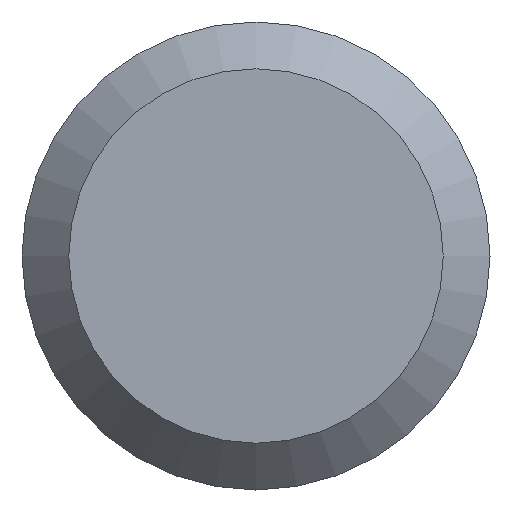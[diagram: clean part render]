
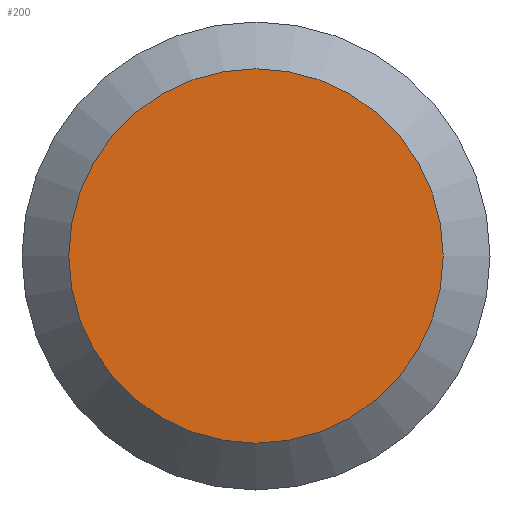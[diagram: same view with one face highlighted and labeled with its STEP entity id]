
A CAD part, left-side view. The second image highlights one B-rep face of the part: STEP entity #200.
In plain terms, the highlighted planar face has unit normal (-1, 0, 0).
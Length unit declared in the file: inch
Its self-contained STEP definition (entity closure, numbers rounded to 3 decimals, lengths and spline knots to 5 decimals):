
#10 = PLANE ( 'NONE',  #114 ) ;
#12 = FACE_OUTER_BOUND ( 'NONE', #163, .T. ) ;
#31 = EDGE_CURVE ( 'NONE', #127, #127, #138, .T. ) ;
#48 = DIRECTION ( 'NONE',  ( 1., 0., 0. ) ) ;
#57 = DIRECTION ( 'NONE',  ( 0., 0., -1. ) ) ;
#61 = CARTESIAN_POINT ( 'NONE',  ( 0., 0.083, 0. ) ) ;
#101 = CARTESIAN_POINT ( 'NONE',  ( 0., 0., -0.0664 ) ) ;
#114 = AXIS2_PLACEMENT_3D ( 'NONE', #61, #48, #57 ) ;
#127 = VERTEX_POINT ( 'NONE', #101 ) ;
#138 = CIRCLE ( 'NONE', #224, 0.0664 ) ;
#149 = DIRECTION ( 'NONE',  ( -1., 0., 0. ) ) ;
#163 = EDGE_LOOP ( 'NONE', ( #208 ) ) ;
#200 = ADVANCED_FACE ( 'NONE', ( #12 ), #10, .F. ) ;
#208 = ORIENTED_EDGE ( 'NONE', *, *, #31, .T. ) ;
#224 = AXIS2_PLACEMENT_3D ( 'NONE', #234, #149, #230 ) ;
#230 = DIRECTION ( 'NONE',  ( 0., 0., -1. ) ) ;
#234 = CARTESIAN_POINT ( 'NONE',  ( 0., 0., 0. ) ) ;
